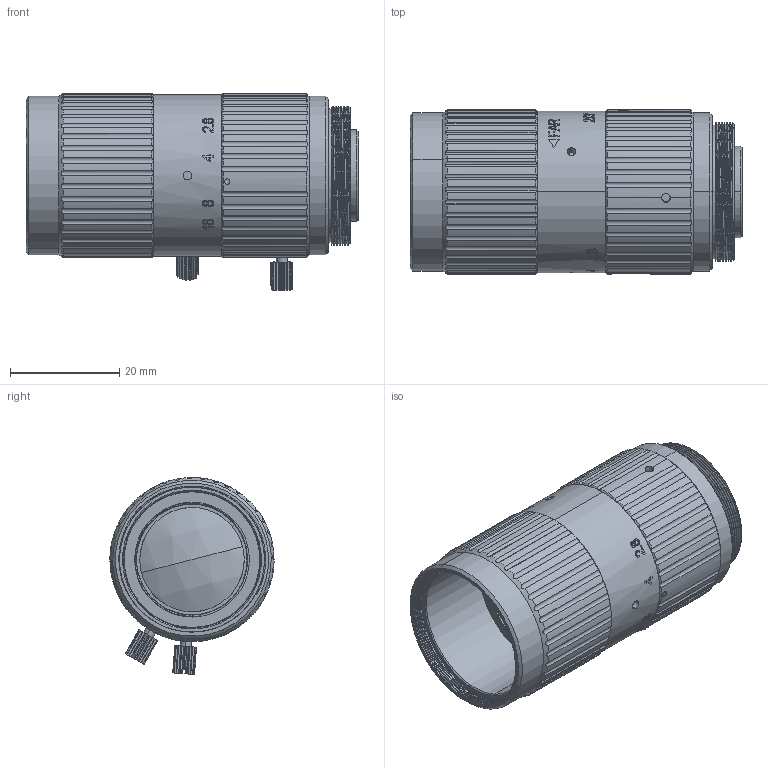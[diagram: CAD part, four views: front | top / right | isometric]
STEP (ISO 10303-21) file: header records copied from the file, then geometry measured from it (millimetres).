
FILE_DESCRIPTION (( 'STEP AP203' ), '1' );
FILE_NAME ('50mm蚾饜极.STEP', '2022-08-16T03:30:08', ( '' ), ( '' ), 'SwSTEP 2.0', 'SolidWorks 2020', '' );
FILE_SCHEMA (( 'CONFIG_CONTROL_DESIGN' ));
Length unit declared in the file: millimetre
Products named in the file (18): 蹟隊; G7; m1.4℅2坋趼羞蹟隊; 50mm嫖擊縐銅; 50mm擄蝴遠-煦賃1; 50mm蟀諉釱; 50mm蚾饜极; MH0005-S04; 50mmヶ噩芠; 絳隊; 絳杶; 后压圈; ǰѹȦ; 2瘍脣种; G1; 50mm翋噩芠; 50mm嫖擊覃誹遠; 50mm嫖擊隊
Assembly tree (25 placements, depth 2):
  50mm蚾饜极
    50mm嫖擊覃誹遠
    50mm嫖擊隊
    50mm嫖擊縐銅
    50mm蟀諉釱
    50mmヶ噩芠
    50mm翋噩芠
    ǰѹȦ
    絳隊
    絳杶
    蹟隊  x3
    2瘍脣种  x2
    50mm擄蝴遠-煦賃1
    G1
    G7
    后压圈
    MH0005-S04  x3
    m1.4℅2坋趼羞蹟隊  x4
Bounding box: 60.68 x 30 x 35.99 mm (x, y, z)
Volume: 20011.5 mm3; surface area: 28217 mm2
Topology: 25 solids, 25 shells, 1544 faces, 4036 edges, 2629 vertices
Faces by surface type: cylinder 646, plane 458, bspline 259, cone 173, sphere 8
Entity records: 79363 total; most frequent: CARTESIAN_POINT 47313, ORIENTED_EDGE 7036, DIRECTION 5212, EDGE_CURVE 3518, VERTEX_POINT 2297, AXIS2_PLACEMENT_3D 2041, EDGE_LOOP 1475, FACE_OUTER_BOUND 1339
